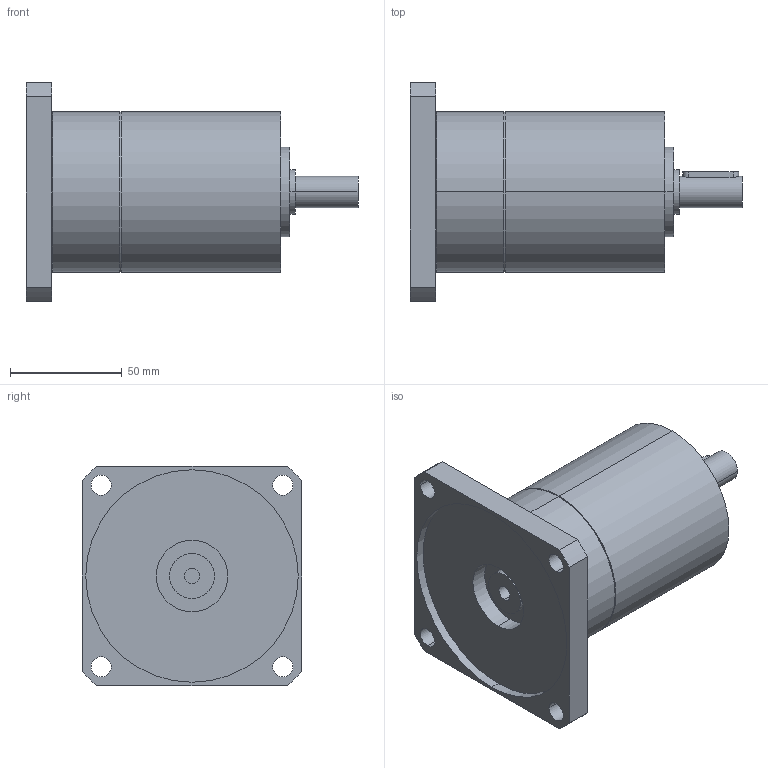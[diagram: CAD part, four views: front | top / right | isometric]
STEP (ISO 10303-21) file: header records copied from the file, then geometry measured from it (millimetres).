
FILE_DESCRIPTION(('CoCreate Modeling STEP Export'),'2;1');
FILE_NAME('GPT75_ig-9-12-16-20-25-28-35-40-50-70-100_14_B14T_7_P08.stp','2014-08-27T13:23:12',(''),(''),'CoCreate Modeling STEP processor for AP214 (Solid Model)','CoCreate Modeling 16.00C 25-Feb-2009 (C) Parametric Technology GmbH','');
FILE_SCHEMA(('AUTOMOTIVE_DESIGN { 1 0 10303 214 1 1 1 1 }'));
Length unit declared in the file: millimetre
Products named in the file (2): GPT75_ig-9-12-16-20-25-28-35-40-50-70-100_14_B14T_7_P08
Assembly tree (1 placements, depth 2):
  GPT75_ig-9-12-16-20-25-28-35-40-50-70-100_14_B14T_7_P08
    GPT75_ig-9-12-16-20-25-28-35-40-50-70-100_14_B14T_7_P08
Bounding box: 148.5 x 98 x 98 mm (x, y, z)
Volume: 498764.8 mm3; surface area: 53398.8 mm2
Topology: 1 solids, 1 shells, 69 faces, 161 edges, 108 vertices
Faces by surface type: cylinder 42, plane 23, cone 4
Entity records: 2136 total; most frequent: CARTESIAN_POINT 659, ORIENTED_EDGE 322, DIRECTION 262, EDGE_CURVE 161, VERTEX_POINT 108, AXIS2_PLACEMENT_3D 99, EDGE_LOOP 91, FACE_OUTER_BOUND 69
